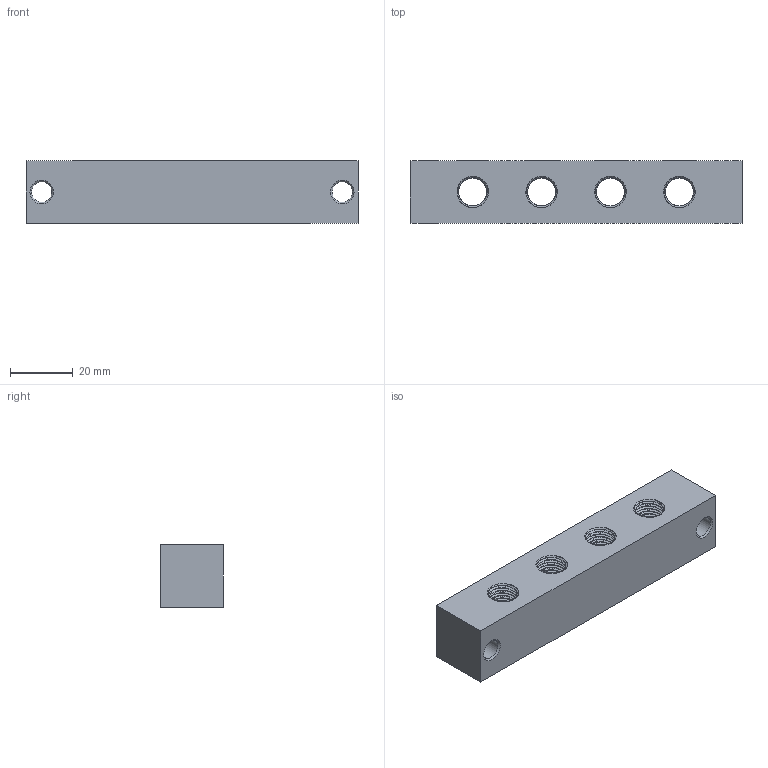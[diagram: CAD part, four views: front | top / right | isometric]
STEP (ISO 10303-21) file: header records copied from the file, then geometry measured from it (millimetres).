
FILE_DESCRIPTION (( 'STEP AP214' ), '1' );
FILE_NAME ('1460_01_04_ASL-04.STEP', '2026-01-26T14:01:55', ( '' ), ( '' ), 'SwSTEP 2.0', 'SolidWorks 2022', '' );
FILE_SCHEMA (( 'AUTOMOTIVE_DESIGN' ));
Length unit declared in the file: millimetre
Products named in the file (1): 1460_01_04_ASL-04
Bounding box: 106 x 20 x 20 mm (x, y, z)
Volume: 33681.1 mm3; surface area: 13386.4 mm2
Topology: 1 solids, 1 shells, 156 faces, 492 edges, 330 vertices
Faces by surface type: bspline 94, cylinder 28, plane 18, cone 16
Full cylindrical faces by diameter (mm): 6.5 x2
Entity records: 40098 total; most frequent: CARTESIAN_POINT 36993, ORIENTED_EDGE 968, EDGE_CURVE 484, VERTEX_POINT 328, DIRECTION 250, B_SPLINE_CURVE_WITH_KNOTS 208, EDGE_LOOP 182, FACE_OUTER_BOUND 158
